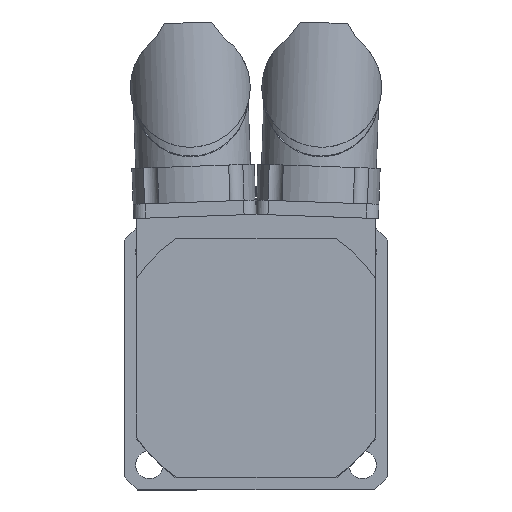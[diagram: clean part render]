
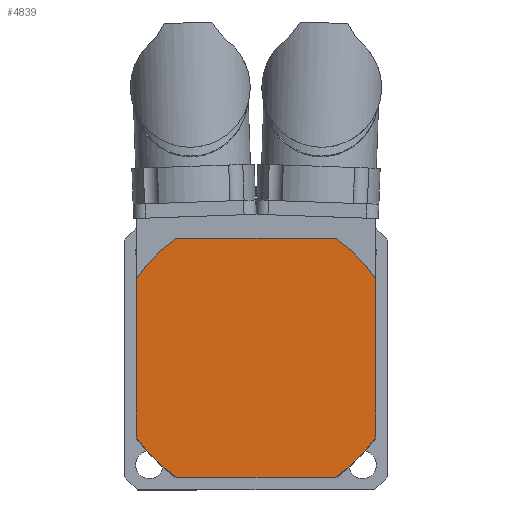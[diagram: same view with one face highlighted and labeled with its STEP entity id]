
A CAD part, top view. The second image highlights one B-rep face of the part: STEP entity #4839.
In plain terms, the highlighted planar face has unit normal (0, 0, 1).
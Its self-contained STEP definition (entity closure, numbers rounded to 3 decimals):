
#3634=CARTESIAN_POINT('',(-25.0,-16.583,3.5));
#3635=VERTEX_POINT('',#3634);
#3642=CARTESIAN_POINT('',(-25.,16.583,3.5));
#3643=VERTEX_POINT('',#3642);
#3644=CARTESIAN_POINT('',(-25.0,-16.583,3.5));
#3645=DIRECTION('',(0.0,1.0,0.0));
#3646=VECTOR('',#3645,33.166);
#3647=LINE('',#3644,#3646);
#3648=EDGE_CURVE('',#3635,#3643,#3647,.T.);
#3733=CARTESIAN_POINT('',(16.583,-25.0,3.5));
#3734=VERTEX_POINT('',#3733);
#3741=CARTESIAN_POINT('',(-16.583,-25.0,3.5));
#3742=VERTEX_POINT('',#3741);
#3743=CARTESIAN_POINT('',(16.583,-25.0,3.5));
#3744=DIRECTION('',(-1.0,0.0,0.0));
#3745=VECTOR('',#3744,33.166);
#3746=LINE('',#3743,#3745);
#3747=EDGE_CURVE('',#3734,#3742,#3746,.T.);
#4665=CARTESIAN_POINT('',(16.583,25.0,3.5));
#4666=VERTEX_POINT('',#4665);
#4667=CARTESIAN_POINT('',(25.0,16.583,3.5));
#4668=VERTEX_POINT('',#4667);
#4669=CARTESIAN_POINT('',(0.0,0.0,3.5));
#4670=DIRECTION('',(0.0,0.0,-1.0));
#4671=DIRECTION('',(-0.833,-0.553,0.0));
#4672=AXIS2_PLACEMENT_3D('',#4669,#4670,#4671);
#4673=CIRCLE('',#4672,30.0);
#4674=EDGE_CURVE('',#4666,#4668,#4673,.T.);
#4703=CARTESIAN_POINT('',(25.,-16.583,3.5));
#4704=VERTEX_POINT('',#4703);
#4705=CARTESIAN_POINT('',(25.0,16.583,3.5));
#4706=DIRECTION('',(0.0,-1.0,0.0));
#4707=VECTOR('',#4706,33.166);
#4708=LINE('',#4705,#4707);
#4709=EDGE_CURVE('',#4668,#4704,#4708,.T.);
#4741=CARTESIAN_POINT('',(0.0,0.0,3.5));
#4742=DIRECTION('',(0.0,0.0,-1.0));
#4743=DIRECTION('',(-0.553,0.833,0.0));
#4744=AXIS2_PLACEMENT_3D('',#4741,#4742,#4743);
#4745=CIRCLE('',#4744,30.0);
#4746=EDGE_CURVE('',#4704,#3734,#4745,.T.);
#4761=CARTESIAN_POINT('',(0.0,0.0,3.5));
#4762=DIRECTION('',(0.0,0.0,-1.0));
#4763=DIRECTION('',(0.833,0.553,0.0));
#4764=AXIS2_PLACEMENT_3D('',#4761,#4762,#4763);
#4765=CIRCLE('',#4764,30.0);
#4766=EDGE_CURVE('',#3742,#3635,#4765,.T.);
#4787=CARTESIAN_POINT('',(-16.583,25.0,3.5));
#4788=VERTEX_POINT('',#4787);
#4789=CARTESIAN_POINT('',(0.0,0.0,3.5));
#4790=DIRECTION('',(0.0,0.0,-1.0));
#4791=DIRECTION('',(0.553,-0.833,0.0));
#4792=AXIS2_PLACEMENT_3D('',#4789,#4790,#4791);
#4793=CIRCLE('',#4792,30.);
#4794=EDGE_CURVE('',#3643,#4788,#4793,.T.);
#4812=CARTESIAN_POINT('',(-16.583,25.0,3.5));
#4813=DIRECTION('',(1.0,0.0,0.0));
#4814=VECTOR('',#4813,33.166);
#4815=LINE('',#4812,#4814);
#4816=EDGE_CURVE('',#4788,#4666,#4815,.T.);
#4824=CARTESIAN_POINT('',(-27.5,-27.5,3.5));
#4825=DIRECTION('',(0.0,0.0,1.0));
#4826=DIRECTION('',(1.0,0.0,0.0));
#4827=AXIS2_PLACEMENT_3D('',#4824,#4825,#4826);
#4828=PLANE('',#4827);
#4829=ORIENTED_EDGE('',*,*,#4674,.F.);
#4830=ORIENTED_EDGE('',*,*,#4816,.F.);
#4831=ORIENTED_EDGE('',*,*,#4794,.F.);
#4832=ORIENTED_EDGE('',*,*,#3648,.F.);
#4833=ORIENTED_EDGE('',*,*,#4766,.F.);
#4834=ORIENTED_EDGE('',*,*,#3747,.F.);
#4835=ORIENTED_EDGE('',*,*,#4746,.F.);
#4836=ORIENTED_EDGE('',*,*,#4709,.F.);
#4837=EDGE_LOOP('',(#4829,#4830,#4831,#4832,#4833,#4834,#4835,#4836));
#4838=FACE_OUTER_BOUND('',#4837,.T.);
#4839=ADVANCED_FACE('',(#4838),#4828,.T.);
